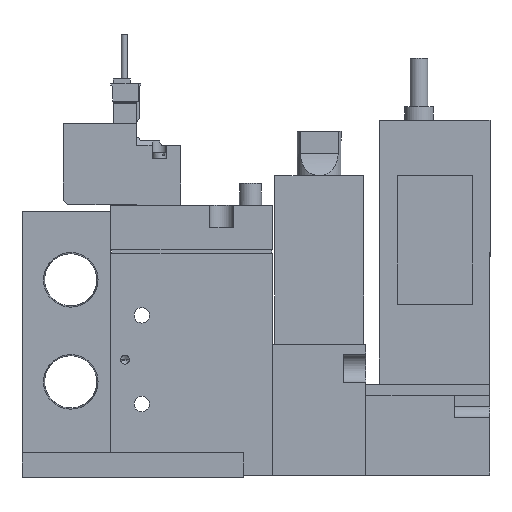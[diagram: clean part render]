
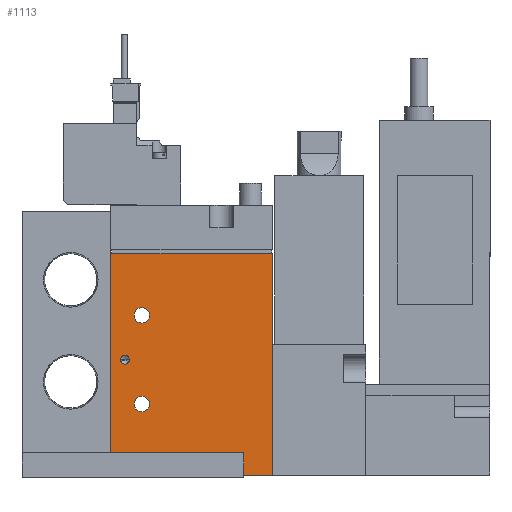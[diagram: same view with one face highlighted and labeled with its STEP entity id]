
A CAD part, left-side view. The second image highlights one B-rep face of the part: STEP entity #1113.
In plain terms, the highlighted planar face has unit normal (-1, 0, 0) as drawn and (1, 0, 0) by its records, which use the part's own axes.
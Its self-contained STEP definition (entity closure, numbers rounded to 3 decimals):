
#1113=ADVANCED_FACE('',(#1794,#1795,#1796,#1797),#1798,.F.);
#1794=FACE_BOUND('',#2801,.T.);
#1795=FACE_BOUND('',#2802,.T.);
#1796=FACE_BOUND('',#2803,.T.);
#1797=FACE_OUTER_BOUND('',#2804,.T.);
#1798=PLANE('',#2805);
#2801=EDGE_LOOP('',(#4409));
#2802=EDGE_LOOP('',(#4410));
#2803=EDGE_LOOP('',(#4411));
#2804=EDGE_LOOP('',(#4412,#4413,#4414,#4415));
#2805=AXIS2_PLACEMENT_3D('',#4416,#4417,#4418);
#4409=ORIENTED_EDGE('',*,*,#6894,.F.);
#4410=ORIENTED_EDGE('',*,*,#6904,.T.);
#4411=ORIENTED_EDGE('',*,*,#6885,.T.);
#4412=ORIENTED_EDGE('',*,*,#6898,.T.);
#4413=ORIENTED_EDGE('',*,*,#6905,.F.);
#4414=ORIENTED_EDGE('',*,*,#6906,.F.);
#4415=ORIENTED_EDGE('',*,*,#6902,.T.);
#4416=CARTESIAN_POINT('',(8.5,-19.444,50.0));
#4417=DIRECTION('',(-1.0,0.0,0.0));
#4418=DIRECTION('',(0.0,0.0,1.0));
#6885=EDGE_CURVE('',#8059,#8059,#8060,.T.);
#6894=EDGE_CURVE('',#8077,#8077,#8078,.T.);
#6898=EDGE_CURVE('',#8085,#8083,#8086,.T.);
#6902=EDGE_CURVE('',#8090,#8085,#8091,.T.);
#6904=EDGE_CURVE('',#8093,#8093,#8094,.T.);
#6905=EDGE_CURVE('',#8095,#8083,#8096,.T.);
#6906=EDGE_CURVE('',#8090,#8095,#8097,.T.);
#8059=VERTEX_POINT('',#9952);
#8060=CIRCLE('',#9953,1.75);
#8077=VERTEX_POINT('',#9974);
#8078=CIRCLE('',#9975,1.0);
#8083=VERTEX_POINT('',#9980);
#8085=VERTEX_POINT('',#9983);
#8086=LINE('',#9984,#9985);
#8090=VERTEX_POINT('',#9990);
#8091=LINE('',#9991,#9992);
#8093=VERTEX_POINT('',#9995);
#8094=CIRCLE('',#9996,1.75);
#8095=VERTEX_POINT('',#9997);
#8096=LINE('',#9998,#9999);
#8097=LINE('',#10000,#10001);
#9952=CARTESIAN_POINT('',(8.5,-10.694,16.0));
#9953=AXIS2_PLACEMENT_3D('',#12190,#12191,#12192);
#9974=CARTESIAN_POINT('',(8.5,-17.244,26.0));
#9975=AXIS2_PLACEMENT_3D('',#12209,#12210,#12211);
#9980=CARTESIAN_POINT('',(8.5,17.056,0.0));
#9983=CARTESIAN_POINT('',(8.5,-19.444,0.0));
#9984=CARTESIAN_POINT('',(8.5,-19.444,0.0));
#9985=VECTOR('',#12219,1.0);
#9990=CARTESIAN_POINT('',(8.5,-19.444,50.0));
#9991=CARTESIAN_POINT('',(8.5,-19.444,50.0));
#9992=VECTOR('',#12224,1.0);
#9995=CARTESIAN_POINT('',(8.5,-10.694,36.0));
#9996=AXIS2_PLACEMENT_3D('',#12226,#12227,#12228);
#9997=CARTESIAN_POINT('',(8.5,17.056,50.0));
#9998=CARTESIAN_POINT('',(8.5,17.056,50.0));
#9999=VECTOR('',#12229,1.0);
#10000=CARTESIAN_POINT('',(8.5,-19.444,50.0));
#10001=VECTOR('',#12230,1.0);
#12190=CARTESIAN_POINT('',(8.5,-12.444,16.0));
#12191=DIRECTION('',(-1.0,0.0,0.0));
#12192=DIRECTION('',(0.0,1.0,0.0));
#12209=CARTESIAN_POINT('',(8.5,-16.244,26.0));
#12210=DIRECTION('',(1.0,0.,0.0));
#12211=DIRECTION('',(0.,-1.0,0.0));
#12219=DIRECTION('',(0.0,1.0,0.0));
#12224=DIRECTION('',(0.0,0.0,-1.0));
#12226=CARTESIAN_POINT('',(8.5,-12.444,36.0));
#12227=DIRECTION('',(-1.0,0.0,0.0));
#12228=DIRECTION('',(0.0,1.0,0.0));
#12229=DIRECTION('',(0.0,0.0,-1.0));
#12230=DIRECTION('',(0.0,1.0,0.0));
